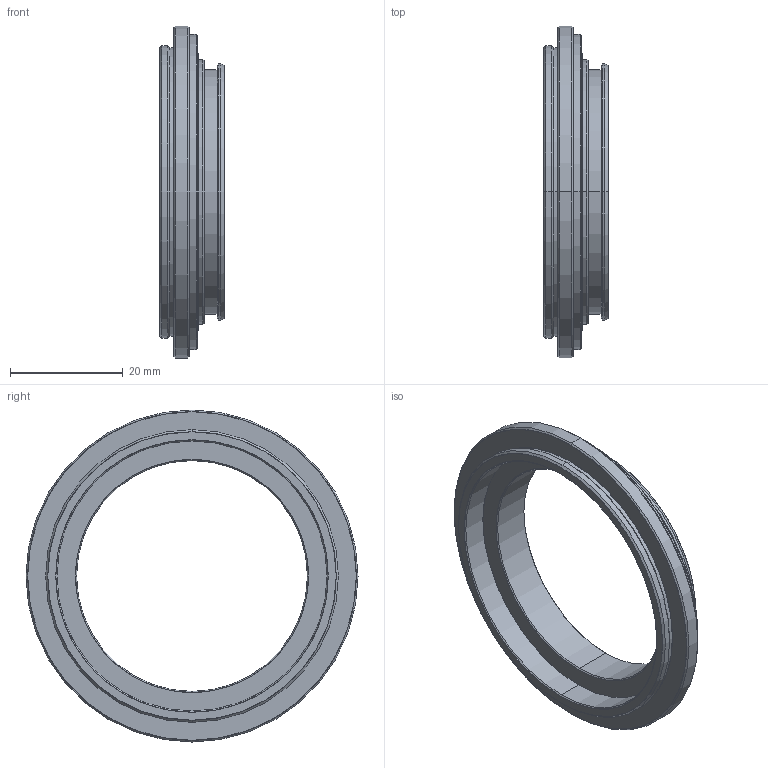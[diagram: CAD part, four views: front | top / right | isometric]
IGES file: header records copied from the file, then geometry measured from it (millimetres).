
Start section: SolidWorks IGES file using analytic representation for surfaces
Bounding box: 11.5 x 59 x 59 mm (x, y, z)
Surface area: 6368.5 mm2 (no closed solid volume)
Topology: 0 solids, 0 shells, 51 faces, 1320 edges, 1320 vertices
Faces by surface type: revolution 42, bspline 9
